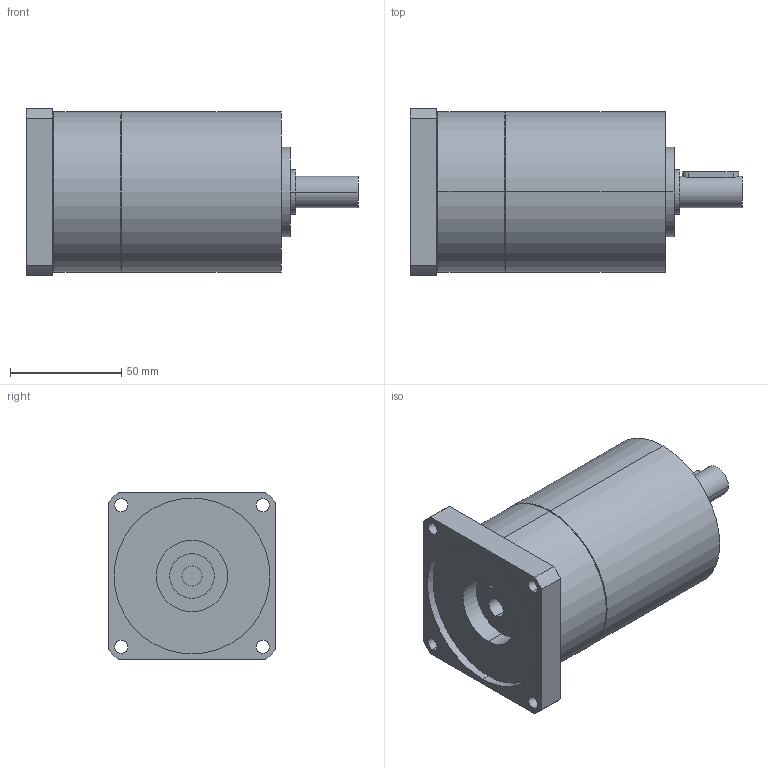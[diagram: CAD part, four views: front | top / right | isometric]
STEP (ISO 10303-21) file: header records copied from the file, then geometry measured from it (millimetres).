
FILE_DESCRIPTION(('CoCreate Modeling STEP Export'),'2;1');
FILE_NAME('GPT75_ig-9-12-16-20-25-28-35-40-50-70-100_14_B14T_9_P24.stp','2014-08-27T13:27:28',(''),(''),'CoCreate Modeling STEP processor for AP214 (Solid Model)','CoCreate Modeling 16.00C 25-Feb-2009 (C) Parametric Technology GmbH','');
FILE_SCHEMA(('AUTOMOTIVE_DESIGN { 1 0 10303 214 1 1 1 1 }'));
Length unit declared in the file: millimetre
Products named in the file (2): GPT75_ig-9-12-16-20-25-28-35-40-50-70-100_14_B14T_9_P24
Assembly tree (1 placements, depth 2):
  GPT75_ig-9-12-16-20-25-28-35-40-50-70-100_14_B14T_9_P24
    GPT75_ig-9-12-16-20-25-28-35-40-50-70-100_14_B14T_9_P24
Bounding box: 149 x 75 x 75 mm (x, y, z)
Volume: 471169.8 mm3; surface area: 44402.7 mm2
Topology: 1 solids, 1 shells, 69 faces, 163 edges, 110 vertices
Faces by surface type: cylinder 42, plane 23, cone 4
Entity records: 2146 total; most frequent: CARTESIAN_POINT 661, ORIENTED_EDGE 326, DIRECTION 262, EDGE_CURVE 163, VERTEX_POINT 110, AXIS2_PLACEMENT_3D 99, EDGE_LOOP 91, FACE_OUTER_BOUND 69
